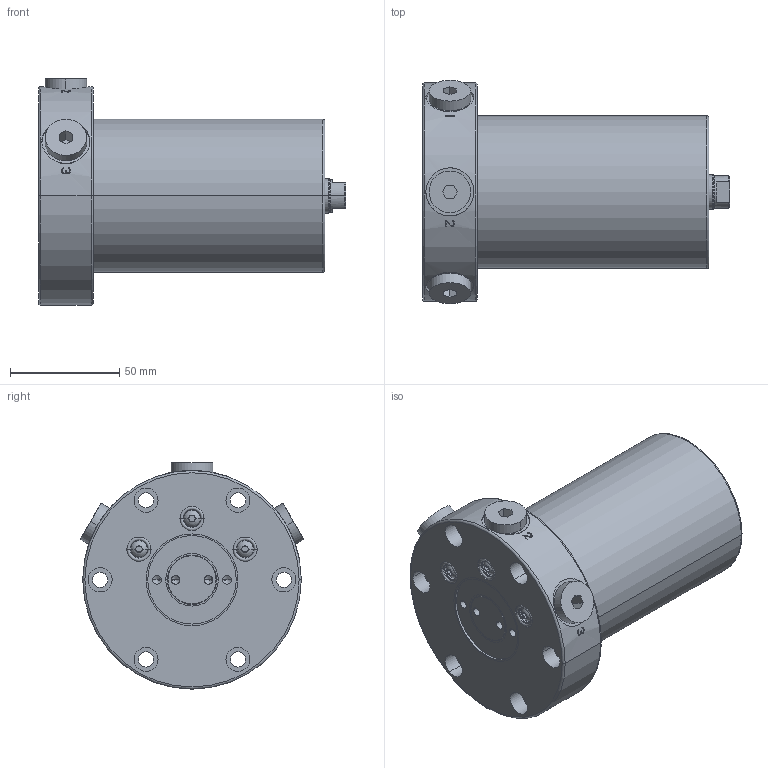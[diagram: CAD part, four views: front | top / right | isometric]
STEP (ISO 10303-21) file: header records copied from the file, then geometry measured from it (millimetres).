
FILE_DESCRIPTION((''),'2;1');
FILE_NAME('MPFC-110_ASM','2012-10-08T',('chad.steele'),(''),'PRO/ENGINEER BY PARAMETRIC TECHNOLOGY CORPORATION, 2010040','PRO/ENGINEER BY PARAMETRIC TECHNOLOGY CORPORATION, 2010040','');
FILE_SCHEMA(('CONFIG_CONTROL_DESIGN'));
Products named in the file (9): CL_100_PUSH_METRIC; CS249047; CS251044; CY561040; CS235006; B1011803; PA1303167; CBA409028-1E; MPFC-110_ASM
Assembly tree (16 placements, depth 2):
  MPFC-110_ASM
    CL_100_PUSH_METRIC
    CS249047
    CS251044
    CY561040
    CS235006  x3
    B1011803  x3
    PA1303167  x3
    CBA409028-1E  x3
Bounding box: 140.65 x 102.2 x 103.5 mm (x, y, z)
Volume: 545193.7 mm3; surface area: 108393.8 mm2
Topology: 16 solids, 27 shells, 585 faces, 1372 edges, 852 vertices
Faces by surface type: plane 211, cylinder 209, cone 83, torus 76, sphere 6
Entity records: 14966 total; most frequent: CARTESIAN_POINT 3135, DIRECTION 2610, ORIENTED_EDGE 2262, EDGE_CURVE 1160, AXIS2_PLACEMENT_3D 1061, VERTEX_POINT 728, EDGE_LOOP 566, CIRCLE 537
